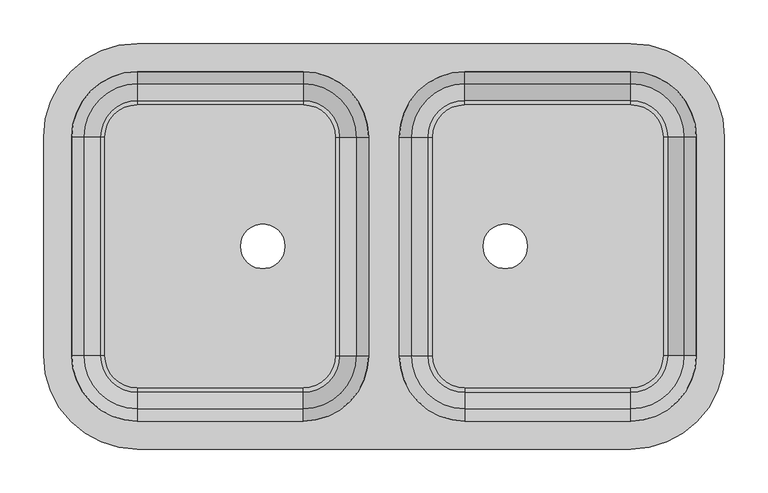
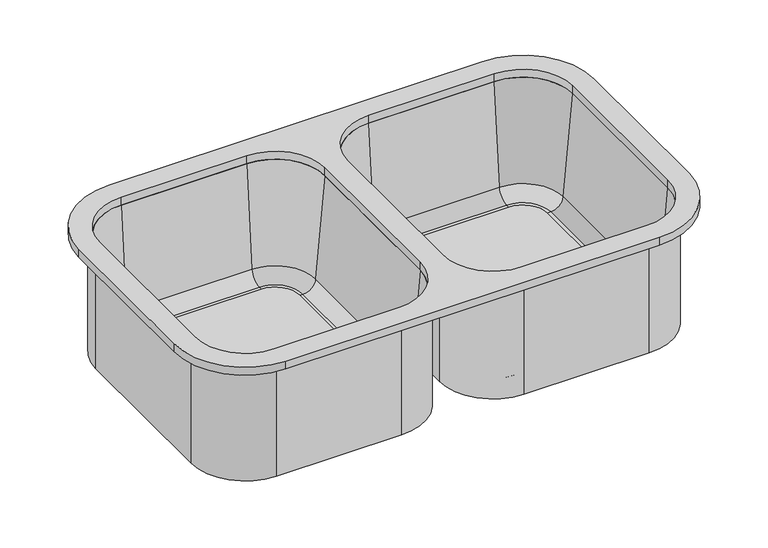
"""IFC4 building model written with IfcOpenShell, lengths in millimetres: flow terminal geometry, Tarja Teka subm BE 780 : TARJA PARA COCINA."""

from ifc_helpers import new_model, si_unit, point, frame, frame_2d, origin, place, context, project, spatial, polyline, circle_curve, ellipse_curve, trimmed, segment, composite_curve, outline, extrude, source, transform, mapped, element, save
from ifc_brep_helpers import plane_surface, cylinder_surface, revolved_surface, advanced_brep


def flow_terminal_3cc32e40(model_context):
    return source(origin(), model_context, "Body", "SolidModel", [
        extrude(outline(composite_curve([segment(trimmed(circle_curve(frame_2d((-226.3107594, -145.3454011)), 36.9), [point((-226.3107594, -182.2454011))], [point((-263.2107594, -145.3454011))], False, "CARTESIAN"), True, "CONTINUOUS"), segment(polyline([(-263.2107594, -145.3454011), (-263.2107594, 104.6545989)]), True, "CONTINUOUS"), segment(trimmed(circle_curve(frame_2d((-226.3107594, 104.6545989)), 36.9), [point((-263.2107594, 104.6545989))], [point((-226.3107594, 141.5545989))], False, "CARTESIAN"), True, "CONTINUOUS"), segment(polyline([(-226.3107594, 141.5545989), (-36.3107594, 141.5545989)]), True, "CONTINUOUS"), segment(trimmed(circle_curve(frame_2d((-36.3107594, 104.6545989)), 36.9), [point((-36.3107594, 141.5545989))], [point((0.5892406, 104.6545989))], False, "CARTESIAN"), True, "CONTINUOUS"), segment(polyline([(0.5892406, 104.6545989), (0.5892406, -145.3454011)]), True, "CONTINUOUS"), segment(trimmed(circle_curve(frame_2d((-36.3107594, -145.3454011)), 36.9), [point((0.5892406, -145.3454011))], [point((-36.3107594, -182.2454011))], False, "CARTESIAN"), True, "CONTINUOUS"), segment(polyline([(-36.3107594, -182.2454011), (-226.3107594, -182.2454011)]), True, "CONTINUOUS")], self_intersect=False), holes=[composite_curve([segment(trimmed(circle_curve(frame_2d((-82.5783069, -20.3454011)), 25.4), [point((-57.1783069, -20.3454011))], [point((-107.9783069, -20.3454011))], True, "CARTESIAN"), True, "CONTINUOUS"), segment(trimmed(circle_curve(frame_2d((-82.5783069, -20.3454011)), 25.4), [point((-107.9783069, -20.3454011))], [point((-57.1783069, -20.3454011))], True, "CARTESIAN"), True, "CONTINUOUS")], self_intersect=False)]), frame((0.0, 0.0, 727.1), z_axis=(0.0, 0.0, 1.0), x_axis=(1.0, 0.0, 0.0)), (0.0, 0.0, 1.0), 9.525),
        advanced_brep(
        [(-301.3107594, -145.3454011, 914.4), (-307.6607594, -145.3454011, 914.4), (-226.3107594, -226.6954011, 914.4), (-226.3107594, -220.3454011, 914.4), (-287.2788624, -145.3454011, 754.0146831), (-226.3107594, -206.3135041, 754.0146831), (-268.3013534, -145.3454011, 736.625), (-226.3107594, -187.3359951, 736.625), (-263.2107594, -145.3454011, 736.625), (-226.3107594, -182.2454011, 736.625), (-263.2107594, -145.3454011, 727.1), (-226.3107594, -182.2454011, 727.1), (-307.6607594, -145.3454011, 727.1), (-226.3107594, -226.6954011, 727.1), (-301.3107594, 104.6545989, 914.4), (-307.6607594, 104.6545989, 914.4), (-287.2788624, 104.6545989, 754.0146831), (-268.3013534, 104.6545989, 736.625), (-263.2107594, 104.6545989, 736.625), (-263.2107594, 104.6545989, 727.1), (-307.6607594, 104.6545989, 727.1), (-226.3107594, 179.6545989, 914.4), (-226.3107594, 186.0045989, 914.4), (-226.3107594, 165.6227019, 754.0146831), (-226.3107594, 146.6451929, 736.625), (-226.3107594, 141.5545989, 736.625), (-226.3107594, 141.5545989, 727.1), (-226.3107594, 186.0045989, 727.1), (-36.3107594, 179.6545989, 914.4), (-36.3107594, 186.0045989, 914.4), (-36.3107594, 165.6227019, 754.0146831), (-36.3107594, 146.6451929, 736.625), (-36.3107594, 141.5545989, 736.625), (-36.3107594, 141.5545989, 727.1), (-36.3107594, 186.0045989, 727.1), (38.6892406, 104.6545989, 914.4), (45.0392406, 104.6545989, 914.4), (24.6573435, 104.6545989, 754.0146831), (5.6798345, 104.6545989, 736.625), (0.5892406, 104.6545989, 736.625), (0.5892406, 104.6545989, 727.1), (45.0392406, 104.6545989, 727.1), (38.6892406, -145.3454011, 914.4), (45.0392406, -145.3454011, 914.4), (24.6573435, -145.3454011, 754.0146831), (5.6798345, -145.3454011, 736.625), (0.5892406, -145.3454011, 736.625), (0.5892406, -145.3454011, 727.1), (45.0392406, -145.3454011, 727.1), (-36.3107594, -220.3454011, 914.4), (-36.3107594, -226.6954011, 914.4), (-36.3107594, -206.3135041, 754.0146831), (-36.3107594, -187.3359951, 736.625), (-36.3107594, -182.2454011, 736.625), (-36.3107594, -182.2454011, 727.1), (-36.3107594, -226.6954011, 727.1)],
        [
            (0, 1),
            (1, 2, circle_curve(frame((-226.3107594, -145.3454011, 914.4), z_axis=(0.0, 0.0, 1.0), x_axis=(0.0, -1.0, 0.0)), 81.35)),
            (2, 3),
            (3, 0, circle_curve(frame((-226.3107594, -145.3454011, 914.4), z_axis=(0.0, 0.0, -1.0), x_axis=(0.0, -1.0, 0.0)), 75.0)),
            (4, 0),
            (3, 5),
            (5, 4, circle_curve(frame((-226.3107594, -145.3454011, 754.0146831), z_axis=(0.0, 0.0, -1.0), x_axis=(0.0, -1.0, 0.0)), 60.968103)),
            (6, 4, circle_curve(frame((-268.3013534, -145.3454011, 755.675), z_axis=(0.0, 1.0, 0.0), x_axis=(1.0, 0.0, 0.0)), 19.05)),
            (5, 7, circle_curve(frame((-226.3107594, -187.3359951, 755.675), z_axis=(1.0, 0.0, 0.0), x_axis=(0.0, 1.0, 0.0)), 19.05)),
            (7, 6, circle_curve(frame((-226.3107594, -145.3454011, 736.625), z_axis=(0.0, 0.0, -1.0), x_axis=(0.0, -1.0, 0.0)), 41.990594)),
            (8, 6),
            (7, 9),
            (9, 8, circle_curve(frame((-226.3107594, -145.3454011, 736.625), z_axis=(0.0, 0.0, -1.0), x_axis=(0.0, -1.0, 0.0)), 36.9)),
            (10, 8),
            (9, 11),
            (11, 10, circle_curve(frame((-226.3107594, -145.3454011, 727.1), z_axis=(0.0, 0.0, -1.0), x_axis=(0.0, -1.0, 0.0)), 36.9)),
            (12, 10),
            (11, 13),
            (13, 12, circle_curve(frame((-226.3107594, -145.3454011, 727.1), z_axis=(0.0, 0.0, -1.0), x_axis=(0.0, -1.0, 0.0)), 81.35)),
            (1, 12),
            (13, 2),
            (0, 14),
            (14, 15),
            (15, 1),
            (4, 16),
            (16, 14),
            (6, 17),
            (17, 16, circle_curve(frame((-268.3013534, 104.6545989, 755.675), z_axis=(0.0, 1.0, 0.0), x_axis=(1.0, 0.0, 0.0)), 19.05)),
            (8, 18),
            (18, 17),
            (10, 19),
            (19, 18),
            (12, 20),
            (20, 19),
            (15, 20),
            (21, 22),
            (22, 15, circle_curve(frame((-226.3107594, 104.6545989, 914.4), z_axis=(0.0, 0.0, 1.0), x_axis=(-1.0, 0.0, 0.0)), 81.35)),
            (14, 21, circle_curve(frame((-226.3107594, 104.6545989, 914.4), z_axis=(0.0, 0.0, -1.0), x_axis=(-1.0, 0.0, 0.0)), 75.0)),
            (23, 21),
            (16, 23, circle_curve(frame((-226.3107594, 104.6545989, 754.0146831), z_axis=(0.0, 0.0, -1.0), x_axis=(-1.0, 0.0, 0.0)), 60.968103)),
            (24, 23, circle_curve(frame((-226.3107594, 146.6451929, 755.675), z_axis=(1.0, 0.0, 0.0), x_axis=(0.0, -1.0, 0.0)), 19.05)),
            (17, 24, circle_curve(frame((-226.3107594, 104.6545989, 736.625), z_axis=(0.0, 0.0, -1.0), x_axis=(-1.0, 0.0, 0.0)), 41.990594)),
            (25, 24),
            (18, 25, circle_curve(frame((-226.3107594, 104.6545989, 736.625), z_axis=(0.0, 0.0, -1.0), x_axis=(-1.0, 0.0, 0.0)), 36.9)),
            (26, 25),
            (19, 26, circle_curve(frame((-226.3107594, 104.6545989, 727.1), z_axis=(0.0, 0.0, -1.0), x_axis=(-1.0, 0.0, 0.0)), 36.9)),
            (27, 26),
            (20, 27, circle_curve(frame((-226.3107594, 104.6545989, 727.1), z_axis=(0.0, 0.0, -1.0), x_axis=(-1.0, 0.0, 0.0)), 81.35)),
            (22, 27),
            (21, 28),
            (28, 29),
            (29, 22),
            (23, 30),
            (30, 28),
            (24, 31),
            (31, 30, circle_curve(frame((-36.3107594, 146.6451929, 755.675), z_axis=(1.0, 0.0, 0.0), x_axis=(0.0, -1.0, 0.0)), 19.05)),
            (25, 32),
            (32, 31),
            (26, 33),
            (33, 32),
            (27, 34),
            (34, 33),
            (29, 34),
            (35, 36),
            (36, 29, circle_curve(frame((-36.3107594, 104.6545989, 914.4), z_axis=(0.0, 0.0, 1.0), x_axis=(0.0, 1.0, 0.0)), 81.35)),
            (28, 35, circle_curve(frame((-36.3107594, 104.6545989, 914.4), z_axis=(0.0, 0.0, -1.0), x_axis=(0.0, 1.0, 0.0)), 75.0)),
            (37, 35),
            (30, 37, circle_curve(frame((-36.3107594, 104.6545989, 754.0146831), z_axis=(0.0, 0.0, -1.0), x_axis=(0.0, 1.0, 0.0)), 60.968103)),
            (38, 37, circle_curve(frame((5.6798345, 104.6545989, 755.675), z_axis=(0.0, -1.0, 0.0), x_axis=(-1.0, 0.0, 0.0)), 19.05)),
            (31, 38, circle_curve(frame((-36.3107594, 104.6545989, 736.625), z_axis=(0.0, 0.0, -1.0), x_axis=(0.0, 1.0, 0.0)), 41.990594)),
            (39, 38),
            (32, 39, circle_curve(frame((-36.3107594, 104.6545989, 736.625), z_axis=(0.0, 0.0, -1.0), x_axis=(0.0, 1.0, 0.0)), 36.9)),
            (40, 39),
            (33, 40, circle_curve(frame((-36.3107594, 104.6545989, 727.1), z_axis=(0.0, 0.0, -1.0), x_axis=(0.0, 1.0, 0.0)), 36.9)),
            (41, 40),
            (34, 41, circle_curve(frame((-36.3107594, 104.6545989, 727.1), z_axis=(0.0, 0.0, -1.0), x_axis=(0.0, 1.0, 0.0)), 81.35)),
            (36, 41),
            (35, 42),
            (42, 43),
            (43, 36),
            (37, 44),
            (44, 42),
            (38, 45),
            (45, 44, circle_curve(frame((5.6798345, -145.3454011, 755.675), z_axis=(0.0, -1.0, 0.0), x_axis=(-1.0, 0.0, 0.0)), 19.05)),
            (39, 46),
            (46, 45),
            (40, 47),
            (47, 46),
            (41, 48),
            (48, 47),
            (43, 48),
            (49, 50),
            (50, 43, circle_curve(frame((-36.3107594, -145.3454011, 914.4), z_axis=(0.0, 0.0, 1.0), x_axis=(1.0, 0.0, 0.0)), 81.35)),
            (42, 49, circle_curve(frame((-36.3107594, -145.3454011, 914.4), z_axis=(0.0, 0.0, -1.0), x_axis=(1.0, 0.0, 0.0)), 75.0)),
            (51, 49),
            (44, 51, circle_curve(frame((-36.3107594, -145.3454011, 754.0146831), z_axis=(0.0, 0.0, -1.0), x_axis=(1.0, 0.0, 0.0)), 60.968103)),
            (52, 51, circle_curve(frame((-36.3107594, -187.3359951, 755.675), z_axis=(-1.0, 0.0, 0.0), x_axis=(0.0, 1.0, 0.0)), 19.05)),
            (45, 52, circle_curve(frame((-36.3107594, -145.3454011, 736.625), z_axis=(0.0, 0.0, -1.0), x_axis=(1.0, 0.0, 0.0)), 41.990594)),
            (53, 52),
            (46, 53, circle_curve(frame((-36.3107594, -145.3454011, 736.625), z_axis=(0.0, 0.0, -1.0), x_axis=(1.0, 0.0, 0.0)), 36.9)),
            (54, 53),
            (47, 54, circle_curve(frame((-36.3107594, -145.3454011, 727.1), z_axis=(0.0, 0.0, -1.0), x_axis=(1.0, 0.0, 0.0)), 36.9)),
            (55, 54),
            (48, 55, circle_curve(frame((-36.3107594, -145.3454011, 727.1), z_axis=(0.0, 0.0, -1.0), x_axis=(1.0, 0.0, 0.0)), 81.35)),
            (50, 55),
            (49, 3),
            (2, 50),
            (51, 5),
            (52, 7),
            (53, 9),
            (54, 11),
            (55, 13),
        ],
        [
            plane_surface(frame((-226.3107594, -145.3454011, 914.4), z_axis=(0.0, 0.0, 1.0), x_axis=(0.0, -1.0, 0.0))),
            revolved_surface(polyline([(-226.3107594, -220.3454011, 914.4), (-226.3107594, -206.3135041, 754.0146831)]), (-226.3107594, -145.3454011, 0.0), (0.0, 0.0, 1.0)),
            revolved_surface(trimmed(ellipse_curve(frame((-226.3107594, -187.3359951, 755.675), z_axis=(1.0, 0.0, 0.0), x_axis=(0.0, 1.0, 0.0)), 19.05, 19.05), [point((-226.3107594, -206.3135041, 754.0146831))], [point((-226.3107594, -187.3359951, 736.625))], True, "CARTESIAN"), (-226.3107594, -145.3454011, 0.0), (0.0, 0.0, 1.0)),
            plane_surface(frame((-226.3107594, -145.3454011, 736.625), z_axis=(0.0, 0.0, 1.0), x_axis=(0.0, -1.0, 0.0))),
            revolved_surface(polyline([(-226.3107594, -182.2454011, 736.625), (-226.3107594, -182.2454011, 727.1)]), (-226.3107594, -145.3454011, 0.0), (0.0, 0.0, 1.0)),
            plane_surface(frame((-226.3107594, -145.3454011, 727.1), z_axis=(0.0, 0.0, -1.0), x_axis=(0.0, -1.0, 0.0))),
            cylinder_surface(frame((-226.3107594, -145.3454011, 0.0), z_axis=(0.0, 0.0, 1.0), x_axis=(0.0, -1.0, 0.0)), 81.35),
            plane_surface(frame((-307.6607594, -145.3454011, 914.4), z_axis=(0.0, 0.0, 1.0), x_axis=(0.0, 1.0, 0.0))),
            plane_surface(frame((-301.3107594, -145.3454011, 914.4), z_axis=(0.996194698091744, 0.0, 0.08715574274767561), x_axis=(0.0, 1.0, 0.0))),
            revolved_surface(polyline([(-249.25135339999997, 104.6545989, 755.675), (-249.25135339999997, -145.3454011, 755.675)]), (-268.3013534, -145.3454011, 755.675), (0.0, 1.0, 0.0)),
            plane_surface(frame((-268.3013534, -145.3454011, 736.625), z_axis=(0.0, 0.0, 1.0), x_axis=(0.0, 1.0, 0.0))),
            plane_surface(frame((-263.2107594, -145.3454011, 736.625), z_axis=(1.0, 0.0, 0.0), x_axis=(0.0, 1.0, 0.0))),
            plane_surface(frame((-263.2107594, -145.3454011, 727.1), z_axis=(0.0, 0.0, -1.0), x_axis=(0.0, 1.0, 0.0))),
            plane_surface(frame((-307.6607594, -145.3454011, 727.1), z_axis=(-1.0, 0.0, 0.0), x_axis=(0.0, 1.0, 0.0))),
            plane_surface(frame((-226.3107594, 104.6545989, 914.4), z_axis=(0.0, 0.0, 1.0), x_axis=(-1.0, 0.0, 0.0))),
            revolved_surface(polyline([(-301.3107594, 104.6545989, 914.4), (-287.2788624, 104.6545989, 754.0146831)]), (-226.3107594, 104.6545989, 0.0), (0.0, 0.0, 1.0)),
            revolved_surface(trimmed(ellipse_curve(frame((-268.3013534, 104.6545989, 755.675), z_axis=(0.0, -1.0, 0.0), x_axis=(1.0, 0.0, 0.0)), 19.05, 19.05), [point((-287.2788624, 104.6545989, 754.0146831))], [point((-268.3013534, 104.6545989, 736.625))], True, "CARTESIAN"), (-226.3107594, 104.6545989, 0.0), (0.0, 0.0, 1.0)),
            plane_surface(frame((-226.3107594, 104.6545989, 736.625), z_axis=(0.0, 0.0, 1.0), x_axis=(-1.0, 0.0, 0.0))),
            revolved_surface(polyline([(-263.2107594, 104.6545989, 736.625), (-263.2107594, 104.6545989, 727.1)]), (-226.3107594, 104.6545989, 0.0), (0.0, 0.0, 1.0)),
            plane_surface(frame((-226.3107594, 104.6545989, 727.1), z_axis=(0.0, 0.0, -1.0), x_axis=(-1.0, 0.0, 0.0))),
            cylinder_surface(frame((-226.3107594, 104.6545989, 0.0), z_axis=(0.0, 0.0, 1.0), x_axis=(-1.0, 0.0, 0.0)), 81.35),
            plane_surface(frame((-226.3107594, 186.0045989, 914.4), z_axis=(0.0, 0.0, 1.0), x_axis=(1.0, 0.0, 0.0))),
            plane_surface(frame((-226.3107594, 179.6545989, 914.4), z_axis=(0.0, -0.996194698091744, 0.08715574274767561), x_axis=(1.0, 0.0, 0.0))),
            revolved_surface(polyline([(-36.310759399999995, 127.59519290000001, 755.675), (-226.3107594, 127.59519290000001, 755.675)]), (-226.3107594, 146.6451929, 755.675), (1.0, 0.0, 0.0)),
            plane_surface(frame((-226.3107594, 146.6451929, 736.625), z_axis=(0.0, 0.0, 1.0), x_axis=(1.0, 0.0, 0.0))),
            plane_surface(frame((-226.3107594, 141.5545989, 736.625), z_axis=(0.0, -1.0, 0.0), x_axis=(1.0, 0.0, 0.0))),
            plane_surface(frame((-226.3107594, 141.5545989, 727.1), z_axis=(0.0, 0.0, -1.0), x_axis=(1.0, 0.0, 0.0))),
            plane_surface(frame((-226.3107594, 186.0045989, 727.1), z_axis=(0.0, 1.0, 0.0), x_axis=(1.0, 0.0, 0.0))),
            plane_surface(frame((-36.3107594, 104.6545989, 914.4), z_axis=(0.0, 0.0, 1.0), x_axis=(0.0, 1.0, 0.0))),
            revolved_surface(polyline([(-36.3107594, 179.6545989, 914.4), (-36.3107594, 165.6227019, 754.0146831)]), (-36.3107594, 104.6545989, 0.0), (0.0, 0.0, 1.0)),
            revolved_surface(trimmed(ellipse_curve(frame((-36.3107594, 146.6451929, 755.675), z_axis=(-1.0, 0.0, 0.0), x_axis=(0.0, -1.0, 0.0)), 19.05, 19.05), [point((-36.3107594, 165.6227019, 754.0146831))], [point((-36.3107594, 146.6451929, 736.625))], True, "CARTESIAN"), (-36.3107594, 104.6545989, 0.0), (0.0, 0.0, 1.0)),
            plane_surface(frame((-36.3107594, 104.6545989, 736.625), z_axis=(0.0, 0.0, 1.0), x_axis=(0.0, 1.0, 0.0))),
            revolved_surface(polyline([(-36.3107594, 141.5545989, 736.625), (-36.3107594, 141.5545989, 727.1)]), (-36.3107594, 104.6545989, 0.0), (0.0, 0.0, 1.0)),
            plane_surface(frame((-36.3107594, 104.6545989, 727.1), z_axis=(0.0, 0.0, -1.0), x_axis=(0.0, 1.0, 0.0))),
            cylinder_surface(frame((-36.3107594, 104.6545989, 0.0), z_axis=(0.0, 0.0, 1.0), x_axis=(0.0, 1.0, 0.0)), 81.35),
            plane_surface(frame((45.0392406, 104.6545989, 914.4), z_axis=(0.0, 0.0, 1.0), x_axis=(0.0, -1.0, 0.0))),
            plane_surface(frame((38.6892406, 104.6545989, 914.4), z_axis=(-0.996194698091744, 0.0, 0.08715574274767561), x_axis=(0.0, -1.0, 0.0))),
            revolved_surface(polyline([(-13.3701655, -145.3454011, 755.675), (-13.3701655, 104.6545989, 755.675)]), (5.6798345, 104.6545989, 755.675), (0.0, -1.0, 0.0)),
            plane_surface(frame((5.6798345, 104.6545989, 736.625), z_axis=(0.0, 0.0, 1.0), x_axis=(0.0, -1.0, 0.0))),
            plane_surface(frame((0.5892406, 104.6545989, 736.625), z_axis=(-1.0, 0.0, 0.0), x_axis=(0.0, -1.0, 0.0))),
            plane_surface(frame((0.5892406, 104.6545989, 727.1), z_axis=(0.0, 0.0, -1.0), x_axis=(0.0, -1.0, 0.0))),
            plane_surface(frame((45.0392406, 104.6545989, 727.1), z_axis=(1.0, 0.0, 0.0), x_axis=(0.0, -1.0, 0.0))),
            plane_surface(frame((-36.3107594, -145.3454011, 914.4), z_axis=(0.0, 0.0, 1.0), x_axis=(1.0, 0.0, 0.0))),
            revolved_surface(polyline([(38.6892406, -145.3454011, 914.4), (24.6573435, -145.3454011, 754.0146831)]), (-36.3107594, -145.3454011, 0.0), (0.0, 0.0, 1.0)),
            revolved_surface(trimmed(ellipse_curve(frame((5.6798345, -145.3454011, 755.675), z_axis=(0.0, 1.0, 0.0), x_axis=(-1.0, 0.0, 0.0)), 19.05, 19.05), [point((24.6573435, -145.3454011, 754.0146831))], [point((5.6798345, -145.3454011, 736.625))], True, "CARTESIAN"), (-36.3107594, -145.3454011, 0.0), (0.0, 0.0, 1.0)),
            plane_surface(frame((-36.3107594, -145.3454011, 736.625), z_axis=(0.0, 0.0, 1.0), x_axis=(1.0, 0.0, 0.0))),
            revolved_surface(polyline([(0.5892405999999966, -145.3454011, 736.625), (0.5892405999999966, -145.3454011, 727.1)]), (-36.3107594, -145.3454011, 0.0), (0.0, 0.0, 1.0)),
            plane_surface(frame((-36.3107594, -145.3454011, 727.1), z_axis=(0.0, 0.0, -1.0), x_axis=(1.0, 0.0, 0.0))),
            cylinder_surface(frame((-36.3107594, -145.3454011, 0.0), z_axis=(0.0, 0.0, 1.0), x_axis=(1.0, 0.0, 0.0)), 81.35),
            plane_surface(frame((-36.3107594, -226.6954011, 914.4), z_axis=(0.0, 0.0, 1.0), x_axis=(-1.0, 0.0, 0.0))),
            plane_surface(frame((-36.3107594, -220.3454011, 914.4), z_axis=(0.0, 0.996194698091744, 0.08715574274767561), x_axis=(-1.0, 0.0, 0.0))),
            revolved_surface(polyline([(-226.3107594, -168.28599509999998, 755.675), (-36.3107594, -168.28599509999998, 755.675)]), (-36.3107594, -187.3359951, 755.675), (-1.0, 0.0, 0.0)),
            plane_surface(frame((-36.3107594, -187.3359951, 736.625), z_axis=(0.0, 0.0, 1.0), x_axis=(-1.0, 0.0, 0.0))),
            plane_surface(frame((-36.3107594, -182.2454011, 736.625), z_axis=(0.0, 1.0, 0.0), x_axis=(-1.0, 0.0, 0.0))),
            plane_surface(frame((-36.3107594, -182.2454011, 727.1), z_axis=(0.0, 0.0, -1.0), x_axis=(-1.0, 0.0, 0.0))),
            plane_surface(frame((-36.3107594, -226.6954011, 727.1), z_axis=(0.0, -1.0, 0.0), x_axis=(-1.0, 0.0, 0.0))),
        ],
        [
            (0, [[1, 2, 3, 4]]),
            (1, [[5, -4, 6, 7]]),
            (2, [[8, -7, 9, 10]]),
            (3, [[11, -10, 12, 13]]),
            (4, [[14, -13, 15, 16]]),
            (5, [[17, -16, 18, 19]]),
            (6, [[20, -19, 21, -2]]),
            (7, [[22, 23, 24, -1]]),
            (8, [[25, 26, -22, -5]]),
            (9, [[27, 28, -25, -8]]),
            (10, [[29, 30, -27, -11]]),
            (11, [[31, 32, -29, -14]]),
            (12, [[33, 34, -31, -17]]),
            (13, [[-24, 35, -33, -20]]),
            (14, [[36, 37, -23, 38]]),
            (15, [[39, -38, -26, 40]]),
            (16, [[41, -40, -28, 42]]),
            (17, [[43, -42, -30, 44]]),
            (18, [[45, -44, -32, 46]]),
            (19, [[47, -46, -34, 48]]),
            (20, [[49, -48, -35, -37]]),
            (21, [[50, 51, 52, -36]]),
            (22, [[53, 54, -50, -39]]),
            (23, [[55, 56, -53, -41]]),
            (24, [[57, 58, -55, -43]]),
            (25, [[59, 60, -57, -45]]),
            (26, [[61, 62, -59, -47]]),
            (27, [[-52, 63, -61, -49]]),
            (28, [[64, 65, -51, 66]]),
            (29, [[67, -66, -54, 68]]),
            (30, [[69, -68, -56, 70]]),
            (31, [[71, -70, -58, 72]]),
            (32, [[73, -72, -60, 74]]),
            (33, [[75, -74, -62, 76]]),
            (34, [[77, -76, -63, -65]]),
            (35, [[78, 79, 80, -64]]),
            (36, [[81, 82, -78, -67]]),
            (37, [[83, 84, -81, -69]]),
            (38, [[85, 86, -83, -71]]),
            (39, [[87, 88, -85, -73]]),
            (40, [[89, 90, -87, -75]]),
            (41, [[-80, 91, -89, -77]]),
            (42, [[92, 93, -79, 94]]),
            (43, [[95, -94, -82, 96]]),
            (44, [[97, -96, -84, 98]]),
            (45, [[99, -98, -86, 100]]),
            (46, [[101, -100, -88, 102]]),
            (47, [[103, -102, -90, 104]]),
            (48, [[105, -104, -91, -93]]),
            (49, [[106, -3, 107, -92]]),
            (50, [[108, -6, -106, -95]]),
            (51, [[109, -9, -108, -97]]),
            (52, [[110, -12, -109, -99]]),
            (53, [[111, -15, -110, -101]]),
            (54, [[112, -18, -111, -103]]),
            (55, [[-107, -21, -112, -105]]),
        ],
    ),
        extrude(outline(composite_curve([segment(polyline([(338.6892406, -182.2454011), (148.6892406, -182.2454011)]), True, "CONTINUOUS"), segment(trimmed(circle_curve(frame_2d((148.6892406, -145.3454011)), 36.9), [point((148.6892406, -182.2454011))], [point((111.7892406, -145.3454011))], False, "CARTESIAN"), True, "CONTINUOUS"), segment(polyline([(111.7892406, -145.3454011), (111.7892406, 104.6545989)]), True, "CONTINUOUS"), segment(trimmed(circle_curve(frame_2d((148.6892406, 104.6545989)), 36.9), [point((111.7892406, 104.6545989))], [point((148.6892406, 141.5545989))], False, "CARTESIAN"), True, "CONTINUOUS"), segment(polyline([(148.6892406, 141.5545989), (338.6892406, 141.5545989)]), True, "CONTINUOUS"), segment(trimmed(circle_curve(frame_2d((338.6892406, 104.6545989)), 36.9), [point((338.6892406, 141.5545989))], [point((375.5892406, 104.6545989))], False, "CARTESIAN"), True, "CONTINUOUS"), segment(polyline([(375.5892406, 104.6545989), (375.5892406, -145.3454011)]), True, "CONTINUOUS"), segment(trimmed(circle_curve(frame_2d((338.6892406, -145.3454011)), 36.9), [point((375.5892406, -145.3454011))], [point((338.6892406, -182.2454011))], False, "CARTESIAN"), True, "CONTINUOUS")], self_intersect=False), holes=[composite_curve([segment(trimmed(circle_curve(frame_2d((194.9567881, -20.3454011)), 25.4), [point((169.5567881, -20.3454011))], [point((220.3567881, -20.3454011))], True, "CARTESIAN"), True, "CONTINUOUS"), segment(trimmed(circle_curve(frame_2d((194.9567881, -20.3454011)), 25.4), [point((220.3567881, -20.3454011))], [point((169.5567881, -20.3454011))], True, "CARTESIAN"), True, "CONTINUOUS")], self_intersect=False)]), frame((0.0, 0.0, 727.1), z_axis=(0.0, 0.0, 1.0), x_axis=(1.0, 0.0, 0.0)), (0.0, 0.0, 1.0), 9.525),
        advanced_brep(
        [(420.0392406, -145.3454011, 727.1), (420.0392406, -145.3454011, 914.4), (338.6892406, -226.6954011, 914.4), (338.6892406, -226.6954011, 727.1), (375.5892406, -145.3454011, 727.1), (338.6892406, -182.2454011, 727.1), (375.5892406, -145.3454011, 736.625), (338.6892406, -182.2454011, 736.625), (380.6798345, -145.3454011, 736.625), (338.6892406, -187.3359951, 736.625), (399.6573435, -145.3454011, 754.0146831), (338.6892406, -206.3135041, 754.0146831), (413.6892406, -145.3454011, 914.4), (338.6892406, -220.3454011, 914.4), (420.0392406, 104.6545989, 727.1), (420.0392406, 104.6545989, 914.4), (375.5892406, 104.6545989, 727.1), (375.5892406, 104.6545989, 736.625), (380.6798345, 104.6545989, 736.625), (399.6573435, 104.6545989, 754.0146831), (413.6892406, 104.6545989, 914.4), (338.6892406, 186.0045989, 727.1), (338.6892406, 186.0045989, 914.4), (338.6892406, 141.5545989, 727.1), (338.6892406, 141.5545989, 736.625), (338.6892406, 146.6451929, 736.625), (338.6892406, 165.6227019, 754.0146831), (338.6892406, 179.6545989, 914.4), (148.6892406, 186.0045989, 727.1), (148.6892406, 186.0045989, 914.4), (148.6892406, 141.5545989, 727.1), (148.6892406, 141.5545989, 736.625), (148.6892406, 146.6451929, 736.625), (148.6892406, 165.6227019, 754.0146831), (148.6892406, 179.6545989, 914.4), (67.3392406, 104.6545989, 727.1), (67.3392406, 104.6545989, 914.4), (111.7892406, 104.6545989, 727.1), (111.7892406, 104.6545989, 736.625), (106.6986466, 104.6545989, 736.625), (87.7211376, 104.6545989, 754.0146831), (73.6892406, 104.6545989, 914.4), (67.3392406, -145.3454011, 727.1), (67.3392406, -145.3454011, 914.4), (111.7892406, -145.3454011, 727.1), (111.7892406, -145.3454011, 736.625), (106.6986466, -145.3454011, 736.625), (87.7211376, -145.3454011, 754.0146831), (73.6892406, -145.3454011, 914.4), (148.6892406, -226.6954011, 727.1), (148.6892406, -226.6954011, 914.4), (148.6892406, -182.2454011, 727.1), (148.6892406, -182.2454011, 736.625), (148.6892406, -187.3359951, 736.625), (148.6892406, -206.3135041, 754.0146831), (148.6892406, -220.3454011, 914.4)],
        [
            (0, 1),
            (1, 2, circle_curve(frame((338.6892406, -145.3454011, 914.4), z_axis=(0.0, 0.0, -1.0), x_axis=(0.0, -1.0, 0.0)), 81.35)),
            (2, 3),
            (3, 0, circle_curve(frame((338.6892406, -145.3454011, 727.1), z_axis=(0.0, 0.0, 1.0), x_axis=(0.0, -1.0, 0.0)), 81.35)),
            (4, 0),
            (3, 5),
            (5, 4, circle_curve(frame((338.6892406, -145.3454011, 727.1), z_axis=(0.0, 0.0, 1.0), x_axis=(0.0, -1.0, 0.0)), 36.9)),
            (6, 4),
            (5, 7),
            (7, 6, circle_curve(frame((338.6892406, -145.3454011, 736.625), z_axis=(0.0, 0.0, 1.0), x_axis=(0.0, -1.0, 0.0)), 36.9)),
            (8, 6),
            (7, 9),
            (9, 8, circle_curve(frame((338.6892406, -145.3454011, 736.625), z_axis=(0.0, 0.0, 1.0), x_axis=(0.0, -1.0, 0.0)), 41.990594)),
            (10, 8, circle_curve(frame((380.6798345, -145.3454011, 755.675), z_axis=(0.0, 1.0, 0.0), x_axis=(1.0, 0.0, 0.0)), 19.05)),
            (9, 11, circle_curve(frame((338.6892406, -187.3359951, 755.675), z_axis=(-1.0, 0.0, 0.0), x_axis=(0.0, -1.0, 0.0)), 19.05)),
            (11, 10, circle_curve(frame((338.6892406, -145.3454011, 754.0146831), z_axis=(0.0, 0.0, 1.0), x_axis=(0.0, -1.0, 0.0)), 60.968103)),
            (12, 10),
            (11, 13),
            (13, 12, circle_curve(frame((338.6892406, -145.3454011, 914.4), z_axis=(0.0, 0.0, 1.0), x_axis=(0.0, -1.0, 0.0)), 75.0)),
            (1, 12),
            (13, 2),
            (0, 14),
            (14, 15),
            (15, 1),
            (4, 16),
            (16, 14),
            (6, 17),
            (17, 16),
            (8, 18),
            (18, 17),
            (10, 19),
            (19, 18, circle_curve(frame((380.6798345, 104.6545989, 755.675), z_axis=(0.0, 1.0, 0.0), x_axis=(1.0, 0.0, 0.0)), 19.05)),
            (12, 20),
            (20, 19),
            (15, 20),
            (21, 22),
            (22, 15, circle_curve(frame((338.6892406, 104.6545989, 914.4), z_axis=(0.0, 0.0, -1.0), x_axis=(1.0, 0.0, 0.0)), 81.35)),
            (14, 21, circle_curve(frame((338.6892406, 104.6545989, 727.1), z_axis=(0.0, 0.0, 1.0), x_axis=(1.0, 0.0, 0.0)), 81.35)),
            (23, 21),
            (16, 23, circle_curve(frame((338.6892406, 104.6545989, 727.1), z_axis=(0.0, 0.0, 1.0), x_axis=(1.0, 0.0, 0.0)), 36.9)),
            (24, 23),
            (17, 24, circle_curve(frame((338.6892406, 104.6545989, 736.625), z_axis=(0.0, 0.0, 1.0), x_axis=(1.0, 0.0, 0.0)), 36.9)),
            (25, 24),
            (18, 25, circle_curve(frame((338.6892406, 104.6545989, 736.625), z_axis=(0.0, 0.0, 1.0), x_axis=(1.0, 0.0, 0.0)), 41.990594)),
            (26, 25, circle_curve(frame((338.6892406, 146.6451929, 755.675), z_axis=(-1.0, 0.0, 0.0), x_axis=(0.0, 1.0, 0.0)), 19.05)),
            (19, 26, circle_curve(frame((338.6892406, 104.6545989, 754.0146831), z_axis=(0.0, 0.0, 1.0), x_axis=(1.0, 0.0, 0.0)), 60.968103)),
            (27, 26),
            (20, 27, circle_curve(frame((338.6892406, 104.6545989, 914.4), z_axis=(0.0, 0.0, 1.0), x_axis=(1.0, 0.0, 0.0)), 75.0)),
            (22, 27),
            (21, 28),
            (28, 29),
            (29, 22),
            (23, 30),
            (30, 28),
            (24, 31),
            (31, 30),
            (25, 32),
            (32, 31),
            (26, 33),
            (33, 32, circle_curve(frame((148.6892406, 146.6451929, 755.675), z_axis=(-1.0, 0.0, 0.0), x_axis=(0.0, 1.0, 0.0)), 19.05)),
            (27, 34),
            (34, 33),
            (29, 34),
            (35, 36),
            (36, 29, circle_curve(frame((148.6892406, 104.6545989, 914.4), z_axis=(0.0, 0.0, -1.0), x_axis=(0.0, 1.0, 0.0)), 81.35)),
            (28, 35, circle_curve(frame((148.6892406, 104.6545989, 727.1), z_axis=(0.0, 0.0, 1.0), x_axis=(0.0, 1.0, 0.0)), 81.35)),
            (37, 35),
            (30, 37, circle_curve(frame((148.6892406, 104.6545989, 727.1), z_axis=(0.0, 0.0, 1.0), x_axis=(0.0, 1.0, 0.0)), 36.9)),
            (38, 37),
            (31, 38, circle_curve(frame((148.6892406, 104.6545989, 736.625), z_axis=(0.0, 0.0, 1.0), x_axis=(0.0, 1.0, 0.0)), 36.9)),
            (39, 38),
            (32, 39, circle_curve(frame((148.6892406, 104.6545989, 736.625), z_axis=(0.0, 0.0, 1.0), x_axis=(0.0, 1.0, 0.0)), 41.990594)),
            (40, 39, circle_curve(frame((106.6986466, 104.6545989, 755.675), z_axis=(0.0, -1.0, 0.0), x_axis=(-1.0, 0.0, 0.0)), 19.05)),
            (33, 40, circle_curve(frame((148.6892406, 104.6545989, 754.0146831), z_axis=(0.0, 0.0, 1.0), x_axis=(0.0, 1.0, 0.0)), 60.968103)),
            (41, 40),
            (34, 41, circle_curve(frame((148.6892406, 104.6545989, 914.4), z_axis=(0.0, 0.0, 1.0), x_axis=(0.0, 1.0, 0.0)), 75.0)),
            (36, 41),
            (35, 42),
            (42, 43),
            (43, 36),
            (37, 44),
            (44, 42),
            (38, 45),
            (45, 44),
            (39, 46),
            (46, 45),
            (40, 47),
            (47, 46, circle_curve(frame((106.6986466, -145.3454011, 755.675), z_axis=(0.0, -1.0, 0.0), x_axis=(-1.0, 0.0, 0.0)), 19.05)),
            (41, 48),
            (48, 47),
            (43, 48),
            (49, 50),
            (50, 43, circle_curve(frame((148.6892406, -145.3454011, 914.4), z_axis=(0.0, 0.0, -1.0), x_axis=(-1.0, 0.0, 0.0)), 81.35)),
            (42, 49, circle_curve(frame((148.6892406, -145.3454011, 727.1), z_axis=(0.0, 0.0, 1.0), x_axis=(-1.0, 0.0, 0.0)), 81.35)),
            (51, 49),
            (44, 51, circle_curve(frame((148.6892406, -145.3454011, 727.1), z_axis=(0.0, 0.0, 1.0), x_axis=(-1.0, 0.0, 0.0)), 36.9)),
            (52, 51),
            (45, 52, circle_curve(frame((148.6892406, -145.3454011, 736.625), z_axis=(0.0, 0.0, 1.0), x_axis=(-1.0, 0.0, 0.0)), 36.9)),
            (53, 52),
            (46, 53, circle_curve(frame((148.6892406, -145.3454011, 736.625), z_axis=(0.0, 0.0, 1.0), x_axis=(-1.0, 0.0, 0.0)), 41.990594)),
            (54, 53, circle_curve(frame((148.6892406, -187.3359951, 755.675), z_axis=(1.0, 0.0, 0.0), x_axis=(0.0, -1.0, 0.0)), 19.05)),
            (47, 54, circle_curve(frame((148.6892406, -145.3454011, 754.0146831), z_axis=(0.0, 0.0, 1.0), x_axis=(-1.0, 0.0, 0.0)), 60.968103)),
            (55, 54),
            (48, 55, circle_curve(frame((148.6892406, -145.3454011, 914.4), z_axis=(0.0, 0.0, 1.0), x_axis=(-1.0, 0.0, 0.0)), 75.0)),
            (50, 55),
            (49, 3),
            (2, 50),
            (51, 5),
            (52, 7),
            (53, 9),
            (54, 11),
            (55, 13),
        ],
        [
            cylinder_surface(frame((338.6892406, -145.3454011, 0.0), z_axis=(0.0, 0.0, -1.0), x_axis=(0.0, -1.0, 0.0)), 81.35),
            plane_surface(frame((338.6892406, -145.3454011, 727.1), z_axis=(0.0, 0.0, -1.0), x_axis=(0.0, -1.0, 0.0))),
            revolved_surface(polyline([(338.6892406, -182.2454011, 727.1), (338.6892406, -182.2454011, 736.625)]), (338.6892406, -145.3454011, 0.0), (0.0, 0.0, -1.0)),
            plane_surface(frame((338.6892406, -145.3454011, 736.625), z_axis=(0.0, 0.0, 1.0), x_axis=(0.0, -1.0, 0.0))),
            revolved_surface(trimmed(ellipse_curve(frame((338.6892406, -187.3359951, 755.675), z_axis=(-1.0, 0.0, 0.0), x_axis=(0.0, -1.0, 0.0)), 19.05, 19.05), [point((338.6892406, -187.3359951, 736.625))], [point((338.6892406, -206.3135041, 754.0146831))], True, "CARTESIAN"), (338.6892406, -145.3454011, 0.0), (0.0, 0.0, -1.0)),
            revolved_surface(polyline([(338.6892406, -206.3135041, 754.0146831), (338.6892406, -220.3454011, 914.4)]), (338.6892406, -145.3454011, 0.0), (0.0, 0.0, -1.0)),
            plane_surface(frame((338.6892406, -145.3454011, 914.4), z_axis=(0.0, 0.0, 1.0), x_axis=(0.0, -1.0, 0.0))),
            plane_surface(frame((420.0392406, -145.3454011, 914.4), z_axis=(1.0, 0.0, 0.0), x_axis=(0.0, 1.0, 0.0))),
            plane_surface(frame((420.0392406, -145.3454011, 727.1), z_axis=(0.0, 0.0, -1.0), x_axis=(0.0, 1.0, 0.0))),
            plane_surface(frame((375.5892406, -145.3454011, 727.1), z_axis=(-1.0, 0.0, 0.0), x_axis=(0.0, 1.0, 0.0))),
            plane_surface(frame((375.5892406, -145.3454011, 736.625), z_axis=(0.0, 0.0, 1.0), x_axis=(0.0, 1.0, 0.0))),
            revolved_surface(polyline([(399.72983450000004, 104.6545989, 755.675), (399.72983450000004, -145.3454011, 755.675)]), (380.6798345, -145.3454011, 755.675), (0.0, 1.0, 0.0)),
            plane_surface(frame((399.6573435, -145.3454011, 754.0146831), z_axis=(-0.996194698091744, 0.0, 0.08715574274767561), x_axis=(0.0, 1.0, 0.0))),
            plane_surface(frame((413.6892406, -145.3454011, 914.4), z_axis=(0.0, 0.0, 1.0), x_axis=(0.0, 1.0, 0.0))),
            cylinder_surface(frame((338.6892406, 104.6545989, 0.0), z_axis=(0.0, 0.0, -1.0), x_axis=(1.0, 0.0, 0.0)), 81.35),
            plane_surface(frame((338.6892406, 104.6545989, 727.1), z_axis=(0.0, 0.0, -1.0), x_axis=(1.0, 0.0, 0.0))),
            revolved_surface(polyline([(375.5892406, 104.6545989, 727.1), (375.5892406, 104.6545989, 736.625)]), (338.6892406, 104.6545989, 0.0), (0.0, 0.0, -1.0)),
            plane_surface(frame((338.6892406, 104.6545989, 736.625), z_axis=(0.0, 0.0, 1.0), x_axis=(1.0, 0.0, 0.0))),
            revolved_surface(trimmed(ellipse_curve(frame((380.6798345, 104.6545989, 755.675), z_axis=(0.0, -1.0, 0.0), x_axis=(1.0, 0.0, 0.0)), 19.05, 19.05), [point((380.6798345, 104.6545989, 736.625))], [point((399.6573435, 104.6545989, 754.0146831))], True, "CARTESIAN"), (338.6892406, 104.6545989, 0.0), (0.0, 0.0, -1.0)),
            revolved_surface(polyline([(399.6573435, 104.6545989, 754.0146831), (413.6892406, 104.6545989, 914.4)]), (338.6892406, 104.6545989, 0.0), (0.0, 0.0, -1.0)),
            plane_surface(frame((338.6892406, 104.6545989, 914.4), z_axis=(0.0, 0.0, 1.0), x_axis=(1.0, 0.0, 0.0))),
            plane_surface(frame((338.6892406, 186.0045989, 914.4), z_axis=(0.0, 1.0, 0.0), x_axis=(-1.0, 0.0, 0.0))),
            plane_surface(frame((338.6892406, 186.0045989, 727.1), z_axis=(0.0, 0.0, -1.0), x_axis=(-1.0, 0.0, 0.0))),
            plane_surface(frame((338.6892406, 141.5545989, 727.1), z_axis=(0.0, -1.0, 0.0), x_axis=(-1.0, 0.0, 0.0))),
            plane_surface(frame((338.6892406, 141.5545989, 736.625), z_axis=(0.0, 0.0, 1.0), x_axis=(-1.0, 0.0, 0.0))),
            revolved_surface(polyline([(148.6892406, 165.69519290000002, 755.675), (338.6892406, 165.69519290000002, 755.675)]), (338.6892406, 146.6451929, 755.675), (-1.0, 0.0, 0.0)),
            plane_surface(frame((338.6892406, 165.6227019, 754.0146831), z_axis=(0.0, -0.996194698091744, 0.08715574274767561), x_axis=(-1.0, 0.0, 0.0))),
            plane_surface(frame((338.6892406, 179.6545989, 914.4), z_axis=(0.0, 0.0, 1.0), x_axis=(-1.0, 0.0, 0.0))),
            cylinder_surface(frame((148.6892406, 104.6545989, 0.0), z_axis=(0.0, 0.0, -1.0), x_axis=(0.0, 1.0, 0.0)), 81.35),
            plane_surface(frame((148.6892406, 104.6545989, 727.1), z_axis=(0.0, 0.0, -1.0), x_axis=(0.0, 1.0, 0.0))),
            revolved_surface(polyline([(148.6892406, 141.5545989, 727.1), (148.6892406, 141.5545989, 736.625)]), (148.6892406, 104.6545989, 0.0), (0.0, 0.0, -1.0)),
            plane_surface(frame((148.6892406, 104.6545989, 736.625), z_axis=(0.0, 0.0, 1.0), x_axis=(0.0, 1.0, 0.0))),
            revolved_surface(trimmed(ellipse_curve(frame((148.6892406, 146.6451929, 755.675), z_axis=(1.0, 0.0, 0.0), x_axis=(0.0, 1.0, 0.0)), 19.05, 19.05), [point((148.6892406, 146.6451929, 736.625))], [point((148.6892406, 165.6227019, 754.0146831))], True, "CARTESIAN"), (148.6892406, 104.6545989, 0.0), (0.0, 0.0, -1.0)),
            revolved_surface(polyline([(148.6892406, 165.6227019, 754.0146831), (148.6892406, 179.6545989, 914.4)]), (148.6892406, 104.6545989, 0.0), (0.0, 0.0, -1.0)),
            plane_surface(frame((148.6892406, 104.6545989, 914.4), z_axis=(0.0, 0.0, 1.0), x_axis=(0.0, 1.0, 0.0))),
            plane_surface(frame((67.3392406, 104.6545989, 914.4), z_axis=(-1.0, 0.0, 0.0), x_axis=(0.0, -1.0, 0.0))),
            plane_surface(frame((67.3392406, 104.6545989, 727.1), z_axis=(0.0, 0.0, -1.0), x_axis=(0.0, -1.0, 0.0))),
            plane_surface(frame((111.7892406, 104.6545989, 727.1), z_axis=(1.0, 0.0, 0.0), x_axis=(0.0, -1.0, 0.0))),
            plane_surface(frame((111.7892406, 104.6545989, 736.625), z_axis=(0.0, 0.0, 1.0), x_axis=(0.0, -1.0, 0.0))),
            revolved_surface(polyline([(87.6486466, -145.3454011, 755.675), (87.6486466, 104.6545989, 755.675)]), (106.6986466, 104.6545989, 755.675), (0.0, -1.0, 0.0)),
            plane_surface(frame((87.7211376, 104.6545989, 754.0146831), z_axis=(0.996194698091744, 0.0, 0.08715574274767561), x_axis=(0.0, -1.0, 0.0))),
            plane_surface(frame((73.6892406, 104.6545989, 914.4), z_axis=(0.0, 0.0, 1.0), x_axis=(0.0, -1.0, 0.0))),
            cylinder_surface(frame((148.6892406, -145.3454011, 0.0), z_axis=(0.0, 0.0, -1.0), x_axis=(-1.0, 0.0, 0.0)), 81.35),
            plane_surface(frame((148.6892406, -145.3454011, 727.1), z_axis=(0.0, 0.0, -1.0), x_axis=(-1.0, 0.0, 0.0))),
            revolved_surface(polyline([(111.7892406, -145.3454011, 727.1), (111.7892406, -145.3454011, 736.625)]), (148.6892406, -145.3454011, 0.0), (0.0, 0.0, -1.0)),
            plane_surface(frame((148.6892406, -145.3454011, 736.625), z_axis=(0.0, 0.0, 1.0), x_axis=(-1.0, 0.0, 0.0))),
            revolved_surface(trimmed(ellipse_curve(frame((106.6986466, -145.3454011, 755.675), z_axis=(0.0, 1.0, 0.0), x_axis=(-1.0, 0.0, 0.0)), 19.05, 19.05), [point((106.6986466, -145.3454011, 736.625))], [point((87.7211376, -145.3454011, 754.0146831))], True, "CARTESIAN"), (148.6892406, -145.3454011, 0.0), (0.0, 0.0, -1.0)),
            revolved_surface(polyline([(87.7211376, -145.3454011, 754.0146831), (73.6892406, -145.3454011, 914.4)]), (148.6892406, -145.3454011, 0.0), (0.0, 0.0, -1.0)),
            plane_surface(frame((148.6892406, -145.3454011, 914.4), z_axis=(0.0, 0.0, 1.0), x_axis=(-1.0, 0.0, 0.0))),
            plane_surface(frame((148.6892406, -226.6954011, 914.4), z_axis=(0.0, -1.0, 0.0), x_axis=(1.0, 0.0, 0.0))),
            plane_surface(frame((148.6892406, -226.6954011, 727.1), z_axis=(0.0, 0.0, -1.0), x_axis=(1.0, 0.0, 0.0))),
            plane_surface(frame((148.6892406, -182.2454011, 727.1), z_axis=(0.0, 1.0, 0.0), x_axis=(1.0, 0.0, 0.0))),
            plane_surface(frame((148.6892406, -182.2454011, 736.625), z_axis=(0.0, 0.0, 1.0), x_axis=(1.0, 0.0, 0.0))),
            revolved_surface(polyline([(338.6892406, -206.3859951, 755.675), (148.6892406, -206.3859951, 755.675)]), (148.6892406, -187.3359951, 755.675), (1.0, 0.0, 0.0)),
            plane_surface(frame((148.6892406, -206.3135041, 754.0146831), z_axis=(0.0, 0.996194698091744, 0.08715574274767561), x_axis=(1.0, 0.0, 0.0))),
            plane_surface(frame((148.6892406, -220.3454011, 914.4), z_axis=(0.0, 0.0, 1.0), x_axis=(1.0, 0.0, 0.0))),
        ],
        [
            (0, [[1, 2, 3, 4]]),
            (1, [[5, -4, 6, 7]]),
            (2, [[8, -7, 9, 10]]),
            (3, [[11, -10, 12, 13]]),
            (4, [[14, -13, 15, 16]]),
            (5, [[17, -16, 18, 19]]),
            (6, [[20, -19, 21, -2]]),
            (7, [[22, 23, 24, -1]]),
            (8, [[25, 26, -22, -5]]),
            (9, [[27, 28, -25, -8]]),
            (10, [[29, 30, -27, -11]]),
            (11, [[31, 32, -29, -14]]),
            (12, [[33, 34, -31, -17]]),
            (13, [[-24, 35, -33, -20]]),
            (14, [[36, 37, -23, 38]]),
            (15, [[39, -38, -26, 40]]),
            (16, [[41, -40, -28, 42]]),
            (17, [[43, -42, -30, 44]]),
            (18, [[45, -44, -32, 46]]),
            (19, [[47, -46, -34, 48]]),
            (20, [[49, -48, -35, -37]]),
            (21, [[50, 51, 52, -36]]),
            (22, [[53, 54, -50, -39]]),
            (23, [[55, 56, -53, -41]]),
            (24, [[57, 58, -55, -43]]),
            (25, [[59, 60, -57, -45]]),
            (26, [[61, 62, -59, -47]]),
            (27, [[-52, 63, -61, -49]]),
            (28, [[64, 65, -51, 66]]),
            (29, [[67, -66, -54, 68]]),
            (30, [[69, -68, -56, 70]]),
            (31, [[71, -70, -58, 72]]),
            (32, [[73, -72, -60, 74]]),
            (33, [[75, -74, -62, 76]]),
            (34, [[77, -76, -63, -65]]),
            (35, [[78, 79, 80, -64]]),
            (36, [[81, 82, -78, -67]]),
            (37, [[83, 84, -81, -69]]),
            (38, [[85, 86, -83, -71]]),
            (39, [[87, 88, -85, -73]]),
            (40, [[89, 90, -87, -75]]),
            (41, [[-80, 91, -89, -77]]),
            (42, [[92, 93, -79, 94]]),
            (43, [[95, -94, -82, 96]]),
            (44, [[97, -96, -84, 98]]),
            (45, [[99, -98, -86, 100]]),
            (46, [[101, -100, -88, 102]]),
            (47, [[103, -102, -90, 104]]),
            (48, [[105, -104, -91, -93]]),
            (49, [[106, -3, 107, -92]]),
            (50, [[108, -6, -106, -95]]),
            (51, [[109, -9, -108, -97]]),
            (52, [[110, -12, -109, -99]]),
            (53, [[111, -15, -110, -101]]),
            (54, [[112, -18, -111, -103]]),
            (55, [[-107, -21, -112, -105]]),
        ],
    ),
        extrude(outline(composite_curve([segment(polyline([(338.6892406, -252.3454011), (-226.3107594, -252.3454011)]), True, "CONTINUOUS"), segment(trimmed(circle_curve(frame_2d((-226.3107594, -145.3454011)), 107.0), [point((-226.3107594, -252.3454011))], [point((-333.3107594, -145.3454011))], False, "CARTESIAN"), True, "CONTINUOUS"), segment(polyline([(-333.3107594, -145.3454011), (-333.3107594, 104.6545989)]), True, "CONTINUOUS"), segment(trimmed(circle_curve(frame_2d((-226.3107594, 104.6545989)), 107.0), [point((-333.3107594, 104.6545989))], [point((-226.3107594, 211.6545989))], False, "CARTESIAN"), True, "CONTINUOUS"), segment(polyline([(-226.3107594, 211.6545989), (338.6892406, 211.6545989)]), True, "CONTINUOUS"), segment(trimmed(circle_curve(frame_2d((338.6892406, 104.6545989)), 107.0), [point((338.6892406, 211.6545989))], [point((445.6892406, 104.6545989))], False, "CARTESIAN"), True, "CONTINUOUS"), segment(polyline([(445.6892406, 104.6545989), (445.6892406, -145.3454011)]), True, "CONTINUOUS"), segment(trimmed(circle_curve(frame_2d((338.6892406, -145.3454011)), 107.0), [point((445.6892406, -145.3454011))], [point((338.6892406, -252.3454011))], False, "CARTESIAN"), True, "CONTINUOUS")], self_intersect=False), holes=[composite_curve([segment(trimmed(circle_curve(frame_2d((338.6892406, -145.3454011)), 75.0), [point((338.6892406, -220.3454011))], [point((413.6892406, -145.3454011))], True, "CARTESIAN"), True, "CONTINUOUS"), segment(polyline([(413.6892406, -145.3454011), (413.6892406, 104.6545989)]), True, "CONTINUOUS"), segment(trimmed(circle_curve(frame_2d((338.6892406, 104.6545989)), 75.0), [point((413.6892406, 104.6545989))], [point((338.6892406, 179.6545989))], True, "CARTESIAN"), True, "CONTINUOUS"), segment(polyline([(338.6892406, 179.6545989), (148.6892406, 179.6545989)]), True, "CONTINUOUS"), segment(trimmed(circle_curve(frame_2d((148.6892406, 104.6545989)), 75.0), [point((148.6892406, 179.6545989))], [point((73.6892406, 104.6545989))], True, "CARTESIAN"), True, "CONTINUOUS"), segment(polyline([(73.6892406, 104.6545989), (73.6892406, -145.3454011)]), True, "CONTINUOUS"), segment(trimmed(circle_curve(frame_2d((148.6892406, -145.3454011)), 75.0), [point((73.6892406, -145.3454011))], [point((148.6892406, -220.3454011))], True, "CARTESIAN"), True, "CONTINUOUS"), segment(polyline([(148.6892406, -220.3454011), (338.6892406, -220.3454011)]), True, "CONTINUOUS")], self_intersect=False), composite_curve([segment(polyline([(-226.3107594, -220.3454011), (-36.3107594, -220.3454011)]), True, "CONTINUOUS"), segment(trimmed(circle_curve(frame_2d((-36.3107594, -145.3454011)), 75.0), [point((-36.3107594, -220.3454011))], [point((38.6892406, -145.3454011))], True, "CARTESIAN"), True, "CONTINUOUS"), segment(polyline([(38.6892406, -145.3454011), (38.6892406, 104.6545989)]), True, "CONTINUOUS"), segment(trimmed(circle_curve(frame_2d((-36.3107594, 104.6545989)), 75.0), [point((38.6892406, 104.6545989))], [point((-36.3107594, 179.6545989))], True, "CARTESIAN"), True, "CONTINUOUS"), segment(polyline([(-36.3107594, 179.6545989), (-226.3107594, 179.6545989)]), True, "CONTINUOUS"), segment(trimmed(circle_curve(frame_2d((-226.3107594, 104.6545989)), 75.0), [point((-226.3107594, 179.6545989))], [point((-301.3107594, 104.6545989))], True, "CARTESIAN"), True, "CONTINUOUS"), segment(polyline([(-301.3107594, 104.6545989), (-301.3107594, -145.3454011)]), True, "CONTINUOUS"), segment(trimmed(circle_curve(frame_2d((-226.3107594, -145.3454011)), 75.0), [point((-301.3107594, -145.3454011))], [point((-226.3107594, -220.3454011))], True, "CARTESIAN"), True, "CONTINUOUS")], self_intersect=False)]), frame((0.0, 0.0, 914.4), z_axis=(0.0, 0.0, 1.0), x_axis=(1.0, 0.0, 0.0)), (0.0, 0.0, 1.0), 12.7),
    ])


if __name__ == "__main__":
    model = new_model("IFC4")
    model_context = context("Model", 3, world=origin())
    ifc_project = project(units=[si_unit("LENGTHUNIT", "METRE", prefix="MILLI")], contexts=[model_context])
    site = spatial("IfcSite", under=ifc_project)
    building = spatial("IfcBuilding", under=site)
    placement = place(None, origin())
    flow_terminal_shape = flow_terminal_3cc32e40(model_context)
    element("IfcFlowTerminal", 1, ObjectType="Tarja Teka subm BE 780 : TARJA PARA COCINA", at=placement, inside=building, context=model_context, shape_type="MappedRepresentation", body=[
        mapped(flow_terminal_shape, transform((0.0, 0.0, 0.0), x_axis=(1.0, 0.0, 0.0), y_axis=(0.0, 1.0, 0.0), z_axis=(0.0, 0.0, 1.0))),
    ])
    save(model, "model.ifc")
